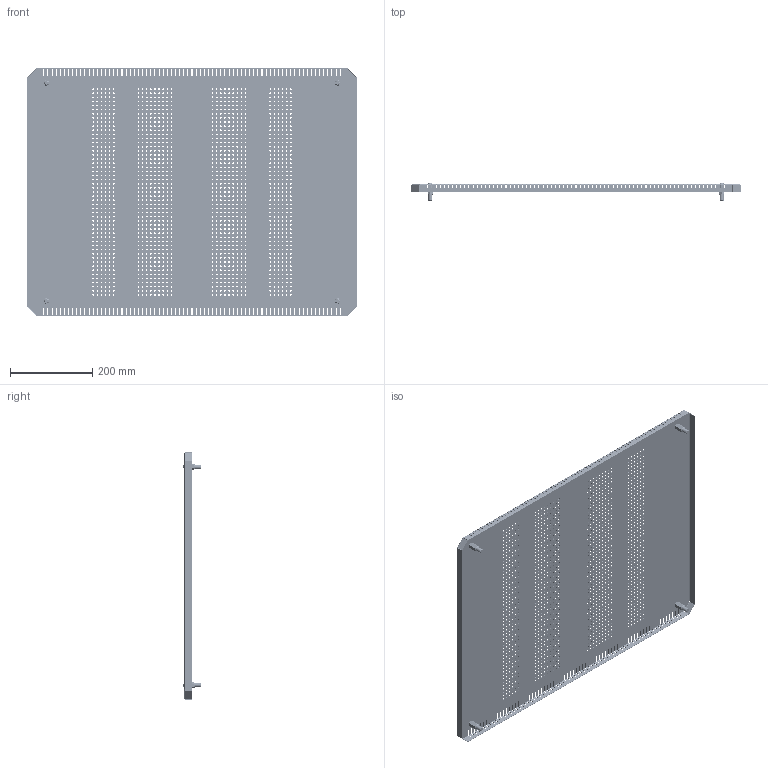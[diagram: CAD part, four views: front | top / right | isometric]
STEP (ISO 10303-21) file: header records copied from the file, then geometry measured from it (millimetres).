
FILE_DESCRIPTION (( 'STEP AP203' ), '1' );
FILE_NAME ('R 80.60 IP Ïàíåëü òåëåêîììóíèêàöèîííàÿ ïîòîëî÷íàÿ ñ ïåðôîðàöèåé.STEP', '2013-01-12T08:59:31', ( 'System' ), ( '' ), 'SwSTEP 2.0', 'SolidWorks 2012', '' );
FILE_SCHEMA (( 'CONFIG_CONTROL_DESIGN' ));
Products named in the file (1): R 80.60 IP Ïàíåëü òåëåêîììóíèêàöèîííàÿ ïîòîëî÷íàÿ ñ ïåðôîðàöèåé
Bounding box: 800 x 42.72 x 600 mm (x, y, z)
Volume: 612193.5 mm3; surface area: 1034833.5 mm2
Topology: 5 solids, 9 shells, 4814 faces, 13932 edges, 8848 vertices
Faces by surface type: cylinder 3408, plane 1310, cone 56, bspline 16, torus 16, sphere 8
Entity records: 167929 total; most frequent: DIRECTION 30316, CARTESIAN_POINT 28975, ORIENTED_EDGE 27832, EDGE_CURVE 13916, AXIS2_PLACEMENT_3D 11719, VERTEX_POINT 8848, EDGE_LOOP 7902, CIRCLE 6920
